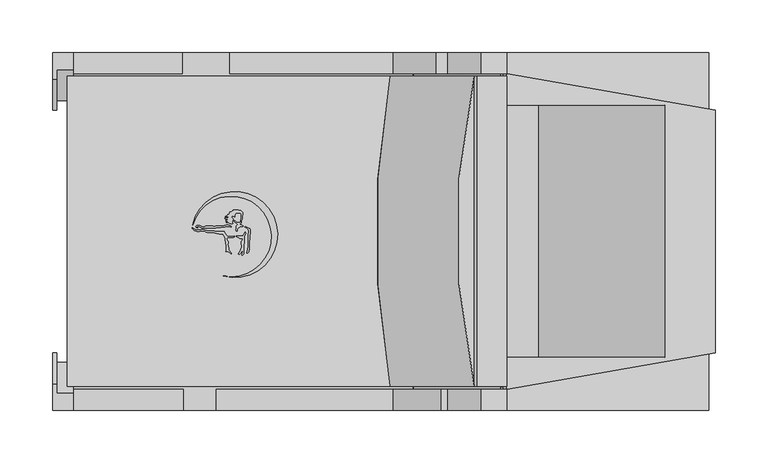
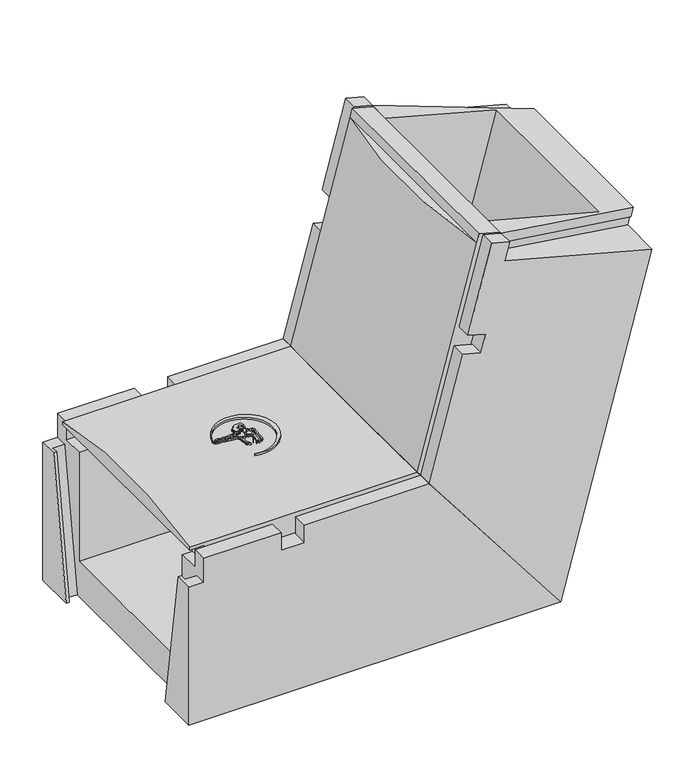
"""IFC4 building model written with IfcOpenShell, lengths in millimetres: cable carrier fitting geometry, Evotray type 2 vertical bend up : Evotray type 2 vertical bend up."""

from ifc_helpers import new_model, si_unit, point, frame, frame_2d, origin, place, context, project, spatial, polyline, circle_curve, ellipse_curve, trimmed, segment, composite_curve, outline, extrude, faceted_brep, source, transform, mapped, element, save
from ifc_brep_helpers import plane_surface, cylinder_surface, advanced_brep


def cable_carrier_fitting_b14db237(model_context):
    return source(origin(), model_context, "Body", "SolidModel", [
        extrude(outline(composite_curve([segment(polyline([(-205.1987673, 5.907559), (-203.7730763, 5.0844359), (-204.4820077, 4.6751342), (-207.0469375, 4.6751342), (-209.5064308, 2.2156409), (-209.5064308, 0.6319729), (-210.5639447, 0.3486129), (-210.8953119, 1.5852919), (-210.5730905, 2.7878385), (-210.5730905, 5.0146536), (-209.1065498, 6.4811943), (-209.5064308, 7.1738084), (-210.5730905, 7.7896447), (-211.4313624, 8.2851682), (-212.4244859, 9.2782918), (-212.4244859, 10.5283487), (-211.6366917, 10.0735155), (-210.5730905, 9.0099142), (-209.5064308, 8.394078), (-207.1936661, 8.394078), (-206.5617675, 9.0259766), (-206.5617675, 10.6343813), (-206.1559104, 11.3373462), (-205.9163405, 12.2314336), (-205.9163405, 16.3268685), (-206.5617675, 16.9722955), (-210.5730905, 17.3232408), (-211.3212546, 16.8912881), (-211.7531031, 16.1433045), (-211.9754965, 15.313321), (-212.2482129, 13.7666695), (-212.8042347, 14.3226912), (-213.3698905, 14.8883471), (-214.3304254, 14.8883471), (-214.8048648, 14.0665939), (-214.8048648, 13.2416885), (-214.4028177, 12.5453225), (-213.675123, 11.8176278), (-214.0717623, 10.3373496), (-214.4092623, 9.0777826), (-214.1064549, 7.3604762), (-214.907248, 7.2192748), (-216.6376932, 7.6829462), (-217.8844025, 8.2642963), (-218.6376597, 8.6155459), (-220.2371082, 8.33352), (-219.7695498, 9.1433549), (-218.1127288, 9.7463885)]), True, "CONTINUOUS"), segment(trimmed(circle_curve(frame_2d((-218.6788564, 9.4744491)), 0.6280537), [point((-218.1127288, 9.7463885))], [point((-218.8344386, 10.0829273))], True, "CARTESIAN"), True, "CONTINUOUS"), segment(polyline([(-218.8344386, 10.0829273), (-220.7814537, 10.0829273), (-220.2232755, 10.6411054), (-219.3724958, 10.9507639), (-218.5540563, 11.2486515)]), True, "CONTINUOUS"), segment(trimmed(circle_curve(frame_2d((-219.2923812, 11.2486515)), 0.7383249), [point((-218.5540563, 11.2486515))], [point((-219.2923812, 11.9869764))], True, "CARTESIAN"), True, "CONTINUOUS"), segment(polyline([(-219.2923812, 11.9869764), (-221.0001288, 11.9869764), (-221.3916504, 12.6651117), (-219.5730583, 12.9857785), (-218.2767203, 13.457607), (-218.897473, 14.0783597), (-220.8606925, 14.0783597), (-220.30811, 14.6309421), (-219.2782773, 15.2255163), (-218.603553, 15.9002407), (-217.8807357, 16.3175594), (-216.9057237, 16.8804829)]), True, "CONTINUOUS"), segment(trimmed(circle_curve(frame_2d((-217.1167091, 17.2459203)), 0.4219708), [point((-216.9057237, 16.8804829))], [point((-217.3276945, 17.6113577))], True, "CARTESIAN"), True, "CONTINUOUS"), segment(polyline([(-217.3276945, 17.6113577), (-216.7102978, 18.2287544), (-215.4076278, 18.7028875), (-214.4125713, 19.2773836), (-213.2810347, 19.4769041), (-213.6348604, 20.4490324), (-208.6348604, 20.4490324), (-207.6206866, 19.9761154), (-206.4988316, 19.6755153), (-205.4843855, 19.0898245), (-204.3757091, 17.9811481), (-204.3757091, 15.4151328), (-204.8646262, 14.5683035), (-204.8646262, 11.8362675), (-205.3536612, 10.7875287), (-205.760463, 10.0829273), (-205.760463, 8.2341629), (-206.5617675, 7.7715296), (-207.3950459, 7.6246001)]), True, "CONTINUOUS"), segment(trimmed(circle_curve(frame_2d((-206.3420944, 7.3424626)), 1.0900956), [point((-207.3950459, 7.6246001))], [point((-206.6242319, 6.2895111))], True, "CARTESIAN"), True, "CONTINUOUS"), segment(polyline([(-206.6242319, 6.2895111), (-205.1987673, 5.907559)]), True, "CONTINUOUS")], self_intersect=False)), frame((0.0, 0.0, 229.0645802), z_axis=(0.0, 0.0, 1.0), x_axis=(1.0, 0.0, 0.0)), (0.0, 0.0, 1.0), 22.5),
        extrude(outline(polyline([(-200.6420581, 3.0525563), (-202.5647021, 4.1625953), (-201.375462, 4.4812513), (-200.0006066, 3.9808448), (-197.8744575, 2.753312), (-197.462808, 1.2170154), (-197.462808, -1.5561738), (-197.8811889, -3.9289297), (-198.2073261, -13.2682758), (-198.2073261, -16.1231727), (-198.766974, -19.297094), (-199.9259981, -20.4561181), (-200.8234867, -20.4561181), (-200.1486125, -18.6019165), (-199.8396569, -16.8497423), (-199.3251997, -13.9321102), (-199.3251997, -2.6926455), (-198.883565, -0.1880111), (-199.4260419, 1.8365401), (-200.6420581, 3.0525563)])), frame((0.0, 0.0, 229.0645802), z_axis=(0.0, 0.0, 1.0), x_axis=(1.0, 0.0, 0.0)), (0.0, 0.0, 1.0), 22.5),
        extrude(outline(composite_curve([segment(polyline([(-208.070307, -4.5554644), (-206.0881056, -4.5554644), (-204.6198413, -4.2965698), (-203.3145593, -2.9912878), (-202.1344504, -0.4605362), (-201.6534984, -1.7819409), (-202.2762062, -3.117342), (-202.9468137, -4.5554644), (-202.9468137, -10.5136603), (-203.3751928, -12.943119), (-203.3751928, -21.4242609), (-204.8238515, -22.8729196), (-205.3965887, -22.3001824), (-204.7178687, -20.5578122), (-204.4597233, -19.0937972)]), True, "CONTINUOUS"), segment(trimmed(circle_curve(frame_2d((-204.8743713, -19.0937972)), 0.414648), [point((-204.4597233, -19.0937972))], [point((-205.2890194, -19.0937972))], True, "CARTESIAN"), True, "CONTINUOUS"), segment(polyline([(-205.2890194, -19.0937972), (-206.0547081, -19.8594859), (-207.3215546, -21.3692548), (-207.9770637, -22.0247639), (-208.7693849, -21.6552984), (-206.605165, -18.4467105), (-206.2992553, -16.7118106), (-205.4571975, -14.9060116), (-205.19999, -13.4473154), (-205.9884987, -12.0815782), (-205.9884987, -9.315031), (-204.6653502, -7.4454743)]), True, "CONTINUOUS"), segment(trimmed(circle_curve(frame_2d((-205.0024552, -7.2068937)), 0.4129897), [point((-204.6653502, -7.4454743))], [point((-205.2410358, -6.8697887))], True, "CARTESIAN"), True, "CONTINUOUS"), segment(polyline([(-205.2410358, -6.8697887), (-207.2448508, -6.516462), (-208.6887473, -5.843162), (-210.508748, -4.9944818), (-210.508748, -4.1255015), (-208.070307, -4.5554644)]), True, "CONTINUOUS")], self_intersect=False)), frame((0.0, 0.0, 229.0645802), z_axis=(0.0, 0.0, 1.0), x_axis=(1.0, 0.0, 0.0)), (0.0, 0.0, 1.0), 22.5),
        extrude(outline(composite_curve([segment(polyline([(-250.4819029, 2.2537302), (-248.7462291, 1.4443722), (-244.5597552, 1.4443722), (-243.4890341, 1.731271), (-242.1624965, 1.731271), (-240.4413877, 1.4443722), (-238.4350656, 0.9067798), (-237.2818775, 0.597784), (-231.5899708, 0.597784), (-228.9734749, 0.1616293), (-227.6459123, -0.19409), (-222.03167, -0.19409)]), True, "CONTINUOUS"), segment(trimmed(circle_curve(frame_2d((-213.1781038, 2.7115165)), 9.3181642), [point((-222.03167, -0.19409))], [point((-218.6774022, -4.8108435))], True, "CARTESIAN"), True, "CONTINUOUS"), segment(polyline([(-218.6774022, -4.8108435), (-215.6256174, -4.8108435), (-213.5910388, -4.632841), (-212.4520349, -4.1017147), (-212.7095548, -5.0627921), (-213.6536491, -5.6078652), (-214.612336, -5.9567987), (-217.847041, -5.8438403), (-219.0357356, -6.2764898), (-219.44473, -7.153581), (-219.3696494, -8.0117562), (-218.8907652, -8.8412079), (-218.1701597, -9.5618134), (-218.1701597, -11.3180259), (-218.53546, -12.3216801), (-218.3911934, -13.970655), (-217.8861011, -15.8556852), (-217.737982, -17.5486944), (-215.3666469, -20.2766033), (-215.5753239, -21.4600691), (-218.1701597, -18.8652332), (-219.1329913, -19.1232231), (-220.5361675, -18.8758053), (-220.2606072, -18.1187094), (-220.2606072, -15.8446539), (-220.0850033, -14.8487551), (-220.2606072, -12.8415943), (-220.6362696, -11.8094702), (-220.6362696, -9.9842873), (-221.0826053, -9.0271173), (-221.0826053, -6.6493678), (-221.3310455, -5.7221762), (-221.7830159, -4.9393406), (-222.2317276, -4.1621491), (-222.84617, -3.5477067), (-223.2800213, -2.6173096), (-226.8809595, -2.4915621), (-229.2251115, -2.1008055), (-231.2577048, -1.5561738), (-234.5993244, -1.2049554), (-236.6789374, -1.2049554), (-238.021172, -0.8453047), (-239.5447671, -0.4370587), (-240.8880204, 0.1893106), (-241.8824091, 0.1893106), (-244.5338495, 0.1893106), (-245.6460936, -0.1087143), (-247.5093755, 0.0871245), (-248.9984504, 0.3353447), (-250.6717579, 1.1156208), (-251.6476843, 2.0915471), (-252.2867674, 2.7306302), (-252.2867674, 3.5175099), (-250.4819029, 2.2537302)]), True, "CONTINUOUS")], self_intersect=False)), frame((0.0, 0.0, 229.0645802), z_axis=(0.0, 0.0, 1.0), x_axis=(1.0, 0.0, 0.0)), (0.0, 0.0, 1.0), 22.5),
        extrude(outline(composite_curve([segment(polyline([(-247.9796703, 3.7977023), (-246.956356, 3.2068915), (-248.6840165, 3.7265624), (-249.014163, 4.6441261), (-248.1758386, 5.4824506), (-245.30302, 5.4824506), (-244.318583, 5.0847122), (-243.2280942, 4.6441261), (-242.4299007, 4.1832889), (-241.1696706, 4.1832889), (-240.3486455, 4.4787), (-239.4633932, 4.9898007), (-233.0496883, 4.9898007), (-232.1941137, 4.6441261), (-231.1237116, 4.6441261), (-230.1629915, 4.9898007), (-228.9838348, 4.9898007), (-228.2654957, 5.4045339), (-222.8528405, 5.4045339), (-222.0925598, 5.6780888), (-220.8504018, 5.6780888), (-220.2746333, 6.2538574), (-218.3170698, 6.2538574), (-217.0290688, 5.7334711), (-216.0171524, 5.1492409), (-215.2127113, 4.8242256)]), True, "CONTINUOUS"), segment(trimmed(circle_curve(frame_2d((-215.6200436, 4.6596527)), 0.4393221), [point((-215.2127113, 4.8242256))], [point((-215.7846166, 4.2523203))], False, "CARTESIAN"), True, "CONTINUOUS"), segment(polyline([(-215.7846166, 4.2523203), (-216.8003453, 4.6627013), (-218.112003, 4.6627013), (-219.382433, 4.8867124), (-220.1944574, 4.5945398), (-221.3374314, 4.1832889), (-224.6816293, 4.1832889), (-225.4727027, 3.7265624), (-229.0400229, 3.7265624), (-229.9228853, 3.2168416), (-239.9228853, 3.2168416), (-242.5335493, 2.9884381), (-246.222077, 4.4787), (-248.3728446, 4.4787), (-247.9796703, 3.7977023)]), True, "CONTINUOUS")], self_intersect=False)), frame((0.0, 0.0, 229.0645802), z_axis=(0.0, 0.0, 1.0), x_axis=(1.0, 0.0, 0.0)), (0.0, 0.0, 1.0), 22.5),
        extrude(outline(composite_curve([segment(trimmed(circle_curve(frame_2d((-215.3994103, -4.8721323)), 38.3616107), [point((-222.8072471, -42.511701))], [point((-252.1109456, 6.2578432))], True, "CARTESIAN"), True, "CONTINUOUS"), segment(trimmed(circle_curve(frame_2d((-212.2700096, -2.9917986)), 40.900563), [point((-252.1109456, 6.2578432))], [point((-222.8072471, -42.511701))], False, "CARTESIAN"), True, "CONTINUOUS")], self_intersect=False)), frame((0.0, 0.0, 229.0645802), z_axis=(0.0, 0.0, 1.0), x_axis=(1.0, 0.0, 0.0)), (0.0, 0.0, 1.0), 22.5),
        advanced_brep(
        [(-42.3020325, -147.5, 205.0), (46.3947282, -147.5, 536.0208174), (18.4061162, -147.5, 543.5203434), (15.3002876, -147.5, 531.9292335), (-64.5545152, -147.5, 234.0), (46.3947282, 147.5, 536.0208174), (-42.3020325, 147.5, 205.0), (-64.5545152, 147.5, 234.0), (15.2770507, 147.5, 531.9354598), (18.4061162, 147.5, 543.5203434)],
        [
            (0, 1),
            (1, 2),
            (2, 3),
            (3, 4),
            (4, 0),
            (5, 6),
            (6, 7),
            (7, 8),
            (8, 9),
            (9, 5),
            (1, 5),
            (9, 2),
            (6, 0),
            (4, 7, ellipse_curve(frame((421.8695293, 0.0, -399.9201568), z_axis=(-0.7933533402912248, 0.0, -0.6087614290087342), x_axis=(-0.6087614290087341, 0.0, 0.7933533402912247)), 820.3835957, 650.854066)),
            (8, 3),
            (8, 3, circle_curve(frame((627.5969019, 0.0, 367.8648501), z_axis=(0.25881904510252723, 0.0, 0.9659258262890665), x_axis=(0.0, -1.0, 0.0)), 650.854066)),
        ],
        [
            plane_surface(frame((46.3947282, -147.5, 536.0208174), z_axis=(0.0, -1.0, 0.0), x_axis=(-0.9659258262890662, 0.0, 0.2588190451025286))),
            plane_surface(frame((46.3947282, 147.5, 536.0208174), z_axis=(0.0, 1.0, 0.0), x_axis=(0.9659258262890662, 0.0, -0.2588190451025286))),
            plane_surface(frame((46.3947282, -147.5, 536.0208174), z_axis=(0.2588190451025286, 0.0, 0.9659258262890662), x_axis=(0.0, 1.0, 0.0))),
            plane_surface(frame((-77.599074, -147.5, 251.0), z_axis=(-0.7933533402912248, 0.0, -0.6087614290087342), x_axis=(0.0, 1.0, 0.0))),
            plane_surface(frame((-42.3020325, -147.5, 205.0), z_axis=(0.9659258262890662, 0.0, -0.25881904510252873), x_axis=(0.0, 1.0, 0.0))),
            plane_surface(frame((18.4061162, -147.5, 543.5203434), z_axis=(-0.9659258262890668, 0.0, 0.2588190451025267), x_axis=(-0.2588190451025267, 0.0, -0.9659258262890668))),
            plane_surface(frame((15.3002876, -147.5, 531.9292335), z_axis=(0.2588190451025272, 0.0, 0.9659258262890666), x_axis=(-0.9659258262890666, 0.0, 0.2588190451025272))),
            cylinder_surface(frame((546.573743, 0.0, 65.4823046), z_axis=(0.25881904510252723, 0.0, 0.9659258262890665), x_axis=(0.0, -1.0, 0.0)), 650.854066),
        ],
        [
            (0, [[1, 2, 3, 4, 5]]),
            (1, [[6, 7, 8, 9, 10]]),
            (2, [[11, -10, 12, -2]]),
            (3, [[13, -5, 14, -7]]),
            (4, [[-1, -13, -6, -11]]),
            (5, [[15, -3, -12, -9]]),
            (6, [[-15, 16]]),
            (7, [[-4, -16, -8, -14]]),
        ],
    ),
        advanced_brep(
        [(-351.0, -147.5, 205.0), (-42.3020325, -147.5, 205.0), (-64.5545152, -147.5, 234.0), (-371.0, -147.5, 234.0), (-371.0, -147.5, 230.0), (-351.0, -147.5, 230.0), (-42.3020325, 147.5, 205.0), (-351.0, 147.5, 205.0), (-351.0, 147.5, 230.0), (-371.0, 147.5, 230.0), (-371.0, 147.5, 234.0), (-64.5545152, 147.5, 234.0)],
        [
            (0, 1),
            (1, 2),
            (2, 3),
            (3, 4),
            (4, 5),
            (5, 0),
            (6, 7),
            (7, 8),
            (8, 9),
            (9, 10),
            (10, 11),
            (11, 6),
            (9, 4),
            (3, 10, circle_curve(frame((-371.0, 0.0, -399.9201568), z_axis=(-1.0, 0.0, 0.0), x_axis=(0.0, -1.0, 0.0)), 650.854066)),
            (6, 1),
            (0, 7),
            (11, 2, ellipse_curve(frame((421.8695293, 0.0, -399.9201568), z_axis=(0.7933533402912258, 0.0, 0.6087614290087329), x_axis=(0.6087614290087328, 0.0, -0.793353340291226)), 820.3835957, 650.854066)),
            (8, 5),
        ],
        [
            plane_surface(frame((-371.0, -147.5, 205.0), z_axis=(0.0, -1.0, 0.0), x_axis=(0.0, 0.0, -1.0))),
            plane_surface(frame((-371.0, 147.5, 205.0), z_axis=(0.0, 1.0, 0.0), x_axis=(0.0, 0.0, 1.0))),
            plane_surface(frame((-371.0, -147.5, 251.0), z_axis=(-1.0, 0.0, 0.0), x_axis=(0.0, 1.0, 0.0))),
            plane_surface(frame((-371.0, -147.5, 205.0), z_axis=(0.0, 0.0, -1.0), x_axis=(0.0, 1.0, 0.0))),
            plane_surface(frame((-42.3020325, -147.5, 205.0), z_axis=(0.7933533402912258, 0.0, 0.6087614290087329), x_axis=(0.0, 1.0, 0.0))),
            plane_surface(frame((-371.0, 147.5, 230.0), z_axis=(0.0, 0.0, -1.0), x_axis=(-1.0, 0.0, 0.0))),
            plane_surface(frame((-351.0, -147.5, 230.0), z_axis=(-1.0, 0.0, 0.0), x_axis=(0.0, 0.0, -1.0))),
            cylinder_surface(frame((-371.0, 0.0, -399.9201568), z_axis=(1.0, 0.0, 0.0), x_axis=(0.0, -1.0, 0.0)), 650.854066),
        ],
        [
            (0, [[1, 2, 3, 4, 5, 6]]),
            (1, [[7, 8, 9, 10, 11, 12]]),
            (2, [[13, -4, 14, -10]]),
            (3, [[15, -1, 16, -7]]),
            (4, [[-15, -12, 17, -2]]),
            (5, [[18, -5, -13, -9]]),
            (6, [[-18, -8, -16, -6]]),
            (7, [[-3, -17, -11, -14]]),
        ],
    ),
        faceted_brep([(-61.4852072, -170.0, 230.0), (115.0, -170.0, 0.0), (237.9390464, -170.0, 458.8147675), (39.924252, -170.0, 511.8726717), (46.3947282, -170.0, 536.0208174), (22.2465825, -170.0, 542.4912935), (-9.8469791, -170.0, 422.7164911), (14.3011666, -170.0, 416.2460149), (7.8306904, -170.0, 392.0978693), (-16.3174552, -170.0, 398.5683454), (115.0, 170.0, 0.0), (-61.4852072, 170.0, 230.0), (-21.2350171, 170.0, 380.2157547), (2.9131286, 170.0, 373.7452786), (14.5599856, 170.0, 417.2119408), (-9.58816, 170.0, 423.6824169), (22.2465825, 170.0, 542.4912935), (46.3947282, 170.0, 536.0208174), (39.924252, 170.0, 511.8726717), (237.9390464, 170.0, 458.8147675), (46.3947282, -120.0, 536.0208174), (46.3947282, -150.0, 536.0208174), (244.4095226, -115.4, 482.9629131), (244.4095226, 115.4, 482.9629131), (46.3947282, 150.0, 536.0208174), (46.3947282, 120.0, 536.0208174), (196.1132312, 120.0, 495.9038654), (196.1132312, -120.0, 495.9038654), (22.2465825, -150.0, 542.4912935), (22.2465825, 150.0, 542.4912935), (-9.8469791, -150.0, 422.7164911), (-9.58816, 150.0, 423.6824169), (-61.4852072, -150.0, 230.0), (-16.3174552, -150.0, 398.5683454), (-61.4852072, 150.0, 230.0), (-21.2350171, 150.0, 380.2157547), (-42.3020325, -150.0, 205.0), (-42.3020325, -120.0, 205.0), (76.6336506, -120.0, 50.0), (76.6336506, 120.0, 50.0), (-42.3020325, 120.0, 205.0), (-42.3020325, 150.0, 205.0), (237.9390464, 113.0, 458.8147675), (241.044875, 113.0, 470.4058774), (241.044875, 115.4, 470.4058774), (241.044875, -115.4, 470.4058774), (241.044875, -113.0, 470.4058774), (237.9390464, -113.0, 458.8147675), (43.0300806, -150.0, 523.4637816), (39.924252, -150.0, 511.8726717), (14.3011666, -150.0, 416.2460149), (7.8306904, -150.0, 392.0978693), (14.5599856, 150.0, 417.2119408), (39.924252, 150.0, 511.8726717), (43.0300806, 150.0, 523.4637816), (2.9131286, 150.0, 373.7452786), (39.924252, -147.6, 511.8726717), (43.0300806, -147.6, 523.4637816), (43.0300806, 147.6, 523.4637816), (39.924252, 147.6, 511.8726717)], [[[0, 1, 2, 3, 4, 5, 6, 7, 8, 9]], [[10, 11, 12, 13, 14, 15, 16, 17, 18, 19]], [[20, 21, 22, 23, 24, 25, 26, 27]], [[28, 5, 4, 21]], [[16, 29, 24, 17]], [[5, 28, 30, 6]], [[29, 16, 15, 31]], [[32, 0, 9, 33]], [[11, 34, 35, 12]], [[1, 0, 32, 36, 37, 38, 39, 40, 41, 34, 11, 10]], [[1, 10, 19, 42, 43, 44, 23, 22, 45, 46, 47, 2]], [[28, 21, 48, 49, 50, 30]], [[36, 32, 33, 51]], [[24, 29, 31, 52, 53, 54]], [[34, 41, 55, 35]], [[37, 36, 51, 8, 7, 50, 49, 56, 57, 48, 21, 20]], [[41, 40, 25, 24, 54, 58, 59, 53, 52, 14, 13, 55]], [[27, 38, 37, 20]], [[39, 26, 25, 40]], [[38, 27, 26, 39]], [[48, 21, 4, 3, 49]], [[21, 48, 45, 22]], [[24, 54, 53, 18, 17]], [[54, 24, 23, 44]], [[46, 57, 56, 47]], [[47, 56, 49, 3, 2]], [[57, 46, 45, 48]], [[42, 59, 58, 43]], [[59, 42, 19, 18, 53]], [[43, 58, 54, 44]], [[55, 13, 12, 35]], [[14, 52, 31, 15]], [[50, 7, 6, 30]], [[8, 51, 33, 9]]]),
        faceted_brep([(-385.0, -170.0, 0.0), (115.0, -170.0, 0.0), (-61.4852072, -170.0, 230.0), (-229.6518259, -170.0, 230.0), (-229.6518259, -170.0, 205.0), (-261.0, -170.0, 205.0), (-261.0, -170.0, 230.0), (-365.0130369, -170.0, 230.0), (-365.0130369, -170.0, 196.0), (-385.0, -170.0, 196.0), (-61.4852072, 170.0, 230.0), (115.0, 170.0, 0.0), (-385.0, 170.0, 0.0), (-385.0, 170.0, 196.0), (-365.0130369, 170.0, 196.0), (-365.0130369, 170.0, 230.0), (-262.0, 170.0, 230.0), (-262.0, 170.0, 205.0), (-217.0, 170.0, 205.0), (-217.0, 170.0, 230.0), (-61.4852072, -150.0, 230.0), (-229.6518259, -150.0, 230.0), (-61.4852072, 150.0, 230.0), (-217.0, 150.0, 230.0), (-365.0130369, -150.0, 230.0), (-261.0, -150.0, 230.0), (-365.0130369, 150.0, 230.0), (-262.0, 150.0, 230.0), (-385.0, -115.45, 0.0), (-385.0, -144.8926087, 196.0), (-385.0, 115.45, 0.0), (-385.0, 144.8926087, 196.0), (-381.0, -115.45, 0.0), (-381.0, -124.6, 0.0), (-365.0, -124.6, 0.0), (-365.0, 124.6, 0.0), (-381.0, 124.6, 0.0), (-381.0, 115.45, 0.0), (-42.3020325, 150.0, 205.0), (-42.3020325, 120.0, 205.0), (76.6336506, 120.0, 50.0), (76.6336506, -120.0, 50.0), (-42.3020325, -120.0, 205.0), (-42.3020325, -150.0, 205.0), (-381.0, 144.8926087, 196.0), (-381.0, -144.8926087, 196.0), (-365.0, 154.0426087, 196.0), (-381.0, 154.0426087, 196.0), (-381.0, -154.0426087, 196.0), (-365.0, -154.0426087, 196.0), (-365.0, -150.0, 205.0), (-365.0, -147.5, 205.0), (-365.0, -120.0, 205.0), (-365.0, -120.0, 50.0), (-365.0, 120.0, 50.0), (-365.0, 120.0, 205.0), (-365.0, 147.5, 205.0), (-365.0, 150.0, 205.0), (-229.6518259, -150.0, 205.0), (-261.0, -150.0, 205.0), (-217.0, 150.0, 205.0), (-262.0, 150.0, 205.0), (-351.0, 120.0, 205.0), (-351.0, -120.0, 205.0)], [[[0, 1, 2, 3, 4, 5, 6, 7, 8, 9]], [[10, 11, 12, 13, 14, 15, 16, 17, 18, 19]], [[2, 20, 21, 3]], [[22, 10, 19, 23]], [[24, 7, 6, 25]], [[15, 26, 27, 16]], [[28, 0, 9, 29]], [[12, 30, 31, 13]], [[1, 0, 28, 32, 33, 34, 35, 36, 37, 30, 12, 11]], [[2, 1, 11, 10, 22, 38, 39, 40, 41, 42, 43, 20]], [[30, 37, 44, 31]], [[32, 28, 29, 45]], [[36, 35, 46, 47]], [[33, 32, 45, 48]], [[37, 36, 47, 44]], [[34, 33, 48, 49]], [[35, 34, 49, 8, 7, 24, 50, 51, 52, 53, 54, 55, 56, 57, 26, 15, 14, 46]], [[8, 49, 48, 45, 29, 9]], [[46, 14, 13, 31, 44, 47]], [[20, 43, 58, 21]], [[50, 24, 25, 59]], [[38, 22, 23, 60]], [[26, 57, 61, 27]], [[39, 38, 60, 18, 17, 61, 57, 56, 55, 62]], [[43, 42, 63, 52, 51, 50, 59, 5, 4, 58]], [[41, 53, 52, 63, 42]], [[54, 40, 39, 62, 55]], [[53, 41, 40, 54]], [[61, 17, 16, 27]], [[18, 60, 23, 19]], [[5, 59, 25, 6]], [[58, 4, 3, 21]]]),
    ])


if __name__ == "__main__":
    model = new_model("IFC4")
    model_context = context("Model", 3, world=origin())
    ifc_project = project(units=[si_unit("LENGTHUNIT", "METRE", prefix="MILLI")], contexts=[model_context])
    site = spatial("IfcSite", under=ifc_project)
    building = spatial("IfcBuilding", under=site)
    placement = place(None, origin())
    cable_carrier_fitting_shape = cable_carrier_fitting_b14db237(model_context)
    element("IfcCableCarrierFitting", 1, ObjectType="Evotray type 2 vertical bend up : Evotray type 2 vertical bend up", at=placement, inside=building, context=model_context, shape_type="MappedRepresentation", body=[
        mapped(cable_carrier_fitting_shape, transform((0.0, 0.0, 0.0), x_axis=(1.0, 0.0, 0.0), y_axis=(0.0, 1.0, 0.0), z_axis=(0.0, 0.0, 1.0))),
    ])
    save(model, "model.ifc")
